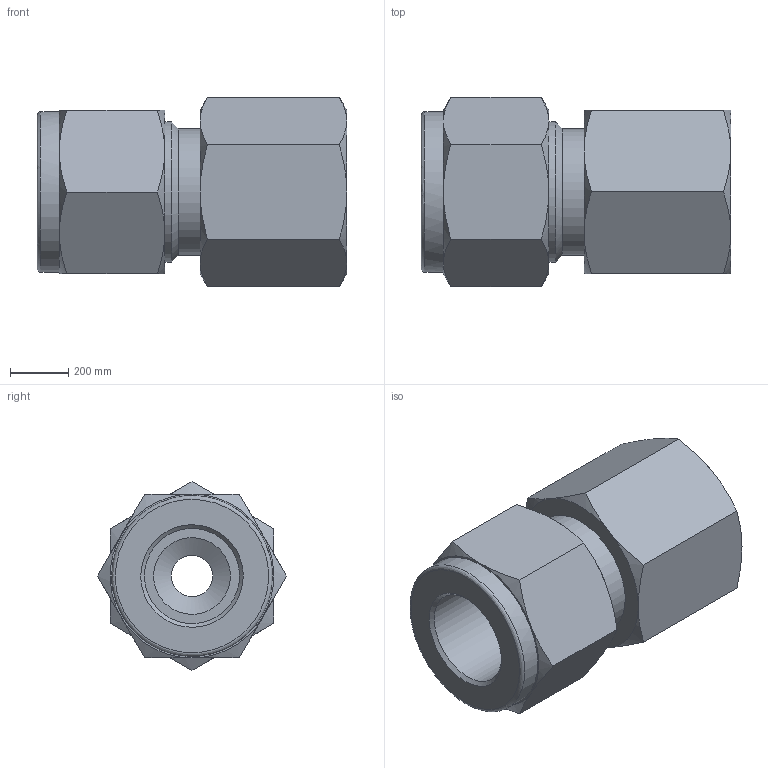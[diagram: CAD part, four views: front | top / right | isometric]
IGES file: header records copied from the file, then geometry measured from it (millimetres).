
Global section: file name: SGC-8-4G; native system: Autodesk Inventor 2016; preprocessor: unknown; author: DESIGNPC2; date: 20151219.164400; units: millimetre
Bounding box: 1066.83 x 651.85 x 651.7 mm (x, y, z)
Volume: 200389903.8 mm3; surface area: 3652139.2 mm2
Topology: 1 solids, 1 shells, 56 faces, 133 edges, 85 vertices
Faces by surface type: bspline 56
